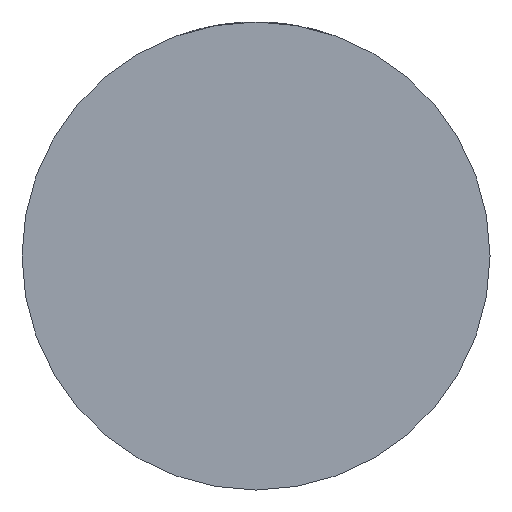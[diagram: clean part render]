
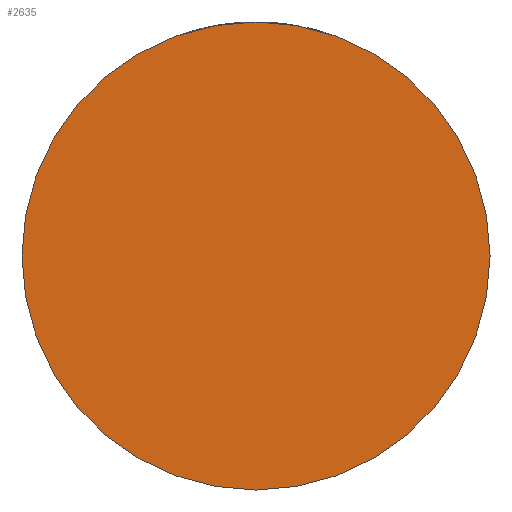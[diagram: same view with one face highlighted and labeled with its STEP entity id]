
A CAD part, front view. The second image highlights one B-rep face of the part: STEP entity #2635.
In plain terms, the highlighted planar face has unit normal (0, -1, 0).
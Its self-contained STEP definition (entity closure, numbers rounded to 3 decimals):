
#65 = DIRECTION ( 'NONE',  ( 0., -1., 0. ) ) ;
#163 = CARTESIAN_POINT ( 'NONE',  ( 0., -26., 0. ) ) ;
#367 = CARTESIAN_POINT ( 'NONE',  ( -32.5, -26., 0. ) ) ;
#830 = CARTESIAN_POINT ( 'NONE',  ( 32.5, -26., 0. ) ) ;
#869 = DIRECTION ( 'NONE',  ( 0., -1., 0. ) ) ;
#1291 = AXIS2_PLACEMENT_3D ( 'NONE', #163, #869, #2182 ) ;
#1342 = VERTEX_POINT ( 'NONE', #367 ) ;
#1380 = CARTESIAN_POINT ( 'NONE',  ( 0., -26., 0. ) ) ;
#1388 = VERTEX_POINT ( 'NONE', #830 ) ;
#1675 = EDGE_LOOP ( 'NONE', ( #2924, #2048 ) ) ;
#1849 = DIRECTION ( 'NONE',  ( 0., -1., 0. ) ) ;
#2040 = DIRECTION ( 'NONE',  ( 1., 0., 0. ) ) ;
#2048 = ORIENTED_EDGE ( 'NONE', *, *, #2450, .T. ) ;
#2144 = CIRCLE ( 'NONE', #2213, 32.5 ) ;
#2182 = DIRECTION ( 'NONE',  ( 1., 0., 0. ) ) ;
#2211 = DIRECTION ( 'NONE',  ( 1., 0., 0. ) ) ;
#2213 = AXIS2_PLACEMENT_3D ( 'NONE', #1380, #65, #2040 ) ;
#2450 = EDGE_CURVE ( 'NONE', #1388, #1342, #2144, .T. ) ;
#2570 = EDGE_CURVE ( 'NONE', #1342, #1388, #3284, .T. ) ;
#2635 = ADVANCED_FACE ( 'NONE', ( #3214 ), #4194, .T. ) ;
#2924 = ORIENTED_EDGE ( 'NONE', *, *, #2570, .T. ) ;
#3214 = FACE_OUTER_BOUND ( 'NONE', #1675, .T. ) ;
#3284 = CIRCLE ( 'NONE', #3859, 32.5 ) ;
#3560 = CARTESIAN_POINT ( 'NONE',  ( 0., -26., 0. ) ) ;
#3859 = AXIS2_PLACEMENT_3D ( 'NONE', #3560, #1849, #2211 ) ;
#4194 = PLANE ( 'NONE',  #1291 ) ;
